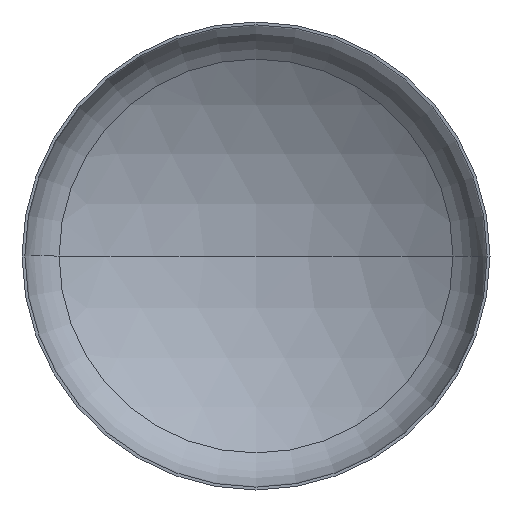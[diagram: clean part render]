
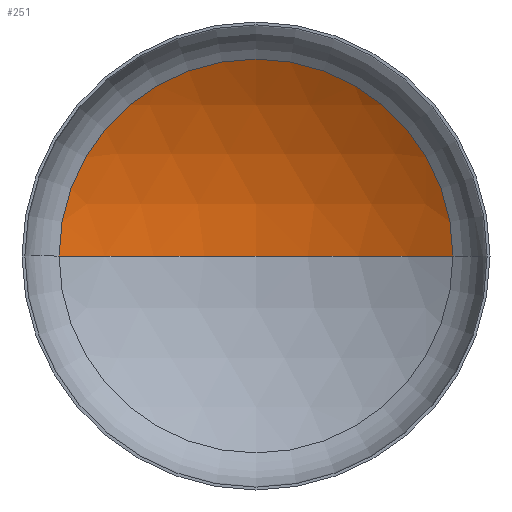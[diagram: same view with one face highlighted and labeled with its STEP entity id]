
A CAD part, front view. The second image highlights one B-rep face of the part: STEP entity #251.
In plain terms, the highlighted spherical face has radius 4800 mm.
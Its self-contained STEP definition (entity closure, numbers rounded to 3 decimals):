
#14 = CARTESIAN_POINT ( 'NONE',  ( 0., -3175.782, 0. ) ) ;
#44 = VERTEX_POINT ( 'NONE', #270 ) ;
#57 = AXIS2_PLACEMENT_3D ( 'NONE', #14, #179, #377 ) ;
#67 = ORIENTED_EDGE ( 'NONE', *, *, #197, .F. ) ;
#89 = VERTEX_POINT ( 'NONE', #220 ) ;
#90 = EDGE_LOOP ( 'NONE', ( #67, #278, #108 ) ) ;
#98 = VERTEX_POINT ( 'NONE', #238 ) ;
#108 = ORIENTED_EDGE ( 'NONE', *, *, #188, .T. ) ;
#117 = AXIS2_PLACEMENT_3D ( 'NONE', #204, #207, #249 ) ;
#125 = AXIS2_PLACEMENT_3D ( 'NONE', #185, #221, #381 ) ;
#128 = AXIS2_PLACEMENT_3D ( 'NONE', #313, #395, #155 ) ;
#136 = SPHERICAL_SURFACE ( 'NONE', #57, 4800. ) ;
#154 = CIRCLE ( 'NONE', #125, 4800. ) ;
#155 = DIRECTION ( 'NONE',  ( 1., 0., 0. ) ) ;
#179 = DIRECTION ( 'NONE',  ( 0., 0., -1. ) ) ;
#185 = CARTESIAN_POINT ( 'NONE',  ( 0., -3175.782, 0. ) ) ;
#188 = EDGE_CURVE ( 'NONE', #98, #44, #237, .T. ) ;
#192 = EDGE_CURVE ( 'NONE', #89, #98, #154, .T. ) ;
#197 = EDGE_CURVE ( 'NONE', #89, #44, #232, .T. ) ;
#204 = CARTESIAN_POINT ( 'NONE',  ( 0., -3175.782, 0. ) ) ;
#207 = DIRECTION ( 'NONE',  ( 0., 0., 1. ) ) ;
#220 = CARTESIAN_POINT ( 'NONE',  ( 0., 1624.218, 0. ) ) ;
#221 = DIRECTION ( 'NONE',  ( 0., 0., -1. ) ) ;
#232 = CIRCLE ( 'NONE', #117, 4800. ) ;
#237 = CIRCLE ( 'NONE', #128, 2524.49 ) ;
#238 = CARTESIAN_POINT ( 'NONE',  ( 2524.49, 906.735, 0. ) ) ;
#249 = DIRECTION ( 'NONE',  ( 1., 0., 0. ) ) ;
#251 = ADVANCED_FACE ( 'NONE', ( #339 ), #136, .F. ) ;
#270 = CARTESIAN_POINT ( 'NONE',  ( -2524.49, 906.735, 0. ) ) ;
#278 = ORIENTED_EDGE ( 'NONE', *, *, #192, .T. ) ;
#313 = CARTESIAN_POINT ( 'NONE',  ( 0., 906.735, 0. ) ) ;
#339 = FACE_OUTER_BOUND ( 'NONE', #90, .T. ) ;
#377 = DIRECTION ( 'NONE',  ( -1., 0., 0. ) ) ;
#381 = DIRECTION ( 'NONE',  ( -1., 0., 0. ) ) ;
#395 = DIRECTION ( 'NONE',  ( 0., -1., 0. ) ) ;
